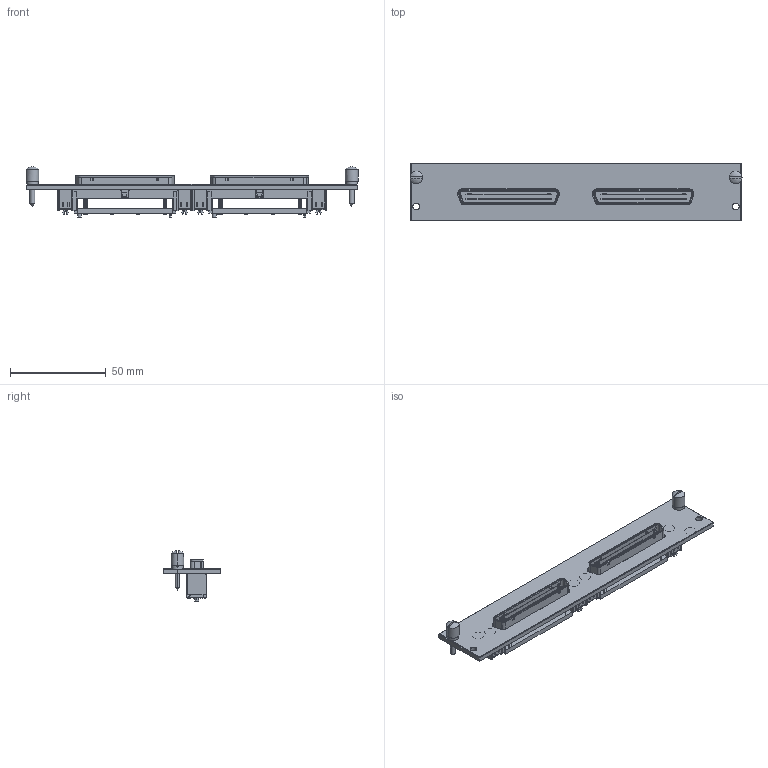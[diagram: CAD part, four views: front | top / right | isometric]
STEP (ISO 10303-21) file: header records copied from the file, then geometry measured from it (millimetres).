
FILE_DESCRIPTION((''),'2;1');
FILE_NAME('CU_SCXI-1130','2009-12-07T',('jjorden'),(''),'PRO/ENGINEER BY PARAMETRIC TECHNOLOGY CORPORATION, 2006080','PRO/ENGINEER BY PARAMETRIC TECHNOLOGY CORPORATION, 2006080','');
FILE_SCHEMA(('CONFIG_CONTROL_DESIGN'));
Length unit declared in the file: inch
Products named in the file (1): CU_SCXI-1130
Bounding box: 173.51 x 30.18 x 26.37 mm (x, y, z)
Volume: 23562.7 mm3; surface area: 24482.9 mm2
Topology: 1 solids, 1 shells, 1845 faces, 4920 edges, 3216 vertices
Faces by surface type: plane 1407, cylinder 362, cone 32, bspline 32, torus 8, sphere 4
Entity records: 57744 total; most frequent: CARTESIAN_POINT 10841, ORIENTED_EDGE 9832, DIRECTION 9392, EDGE_CURVE 4916, VECTOR 4066, LINE 4066, VERTEX_POINT 3216, AXIS2_PLACEMENT_3D 2663
